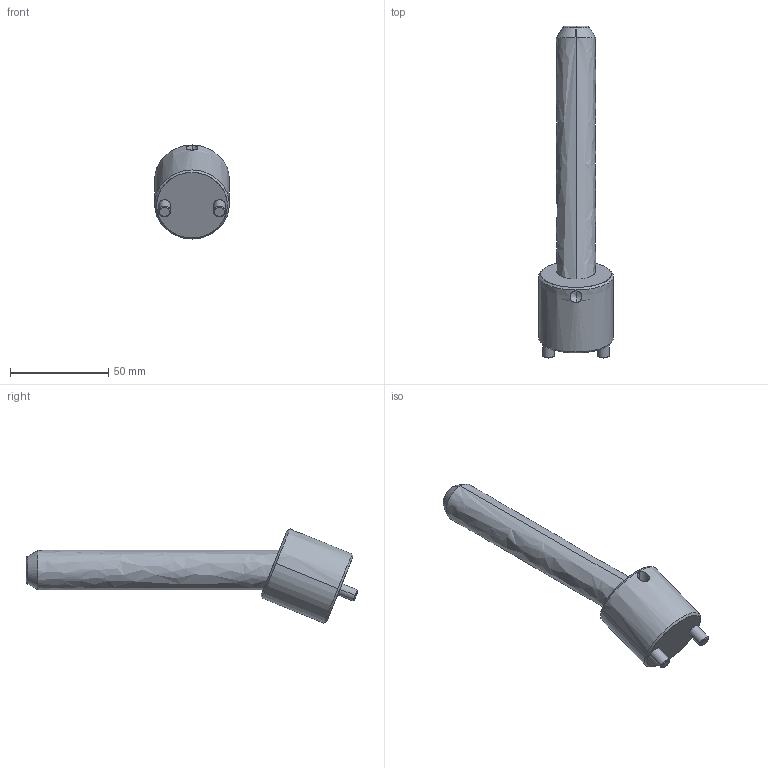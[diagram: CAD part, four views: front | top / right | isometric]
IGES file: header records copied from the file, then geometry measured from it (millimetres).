
Start section: START RECORD GO HERE.
Global section: file name: CI2220125.igs; native system: DASSAULT SYSTEMES CATIA V5 R20 - www.3ds.com; preprocessor: CATIA Version 5 Release 20 ; author: r.borello; organization: CFTORINO; date: 20190624.085017; units: millimetre
Bounding box: 38 x 169.16 x 47.97 mm (x, y, z)
Surface area: 18974.8 mm2 (no closed solid volume)
Topology: 0 solids, 0 shells, 39 faces, 162 edges, 160 vertices
Faces by surface type: revolution 32, plane 7
